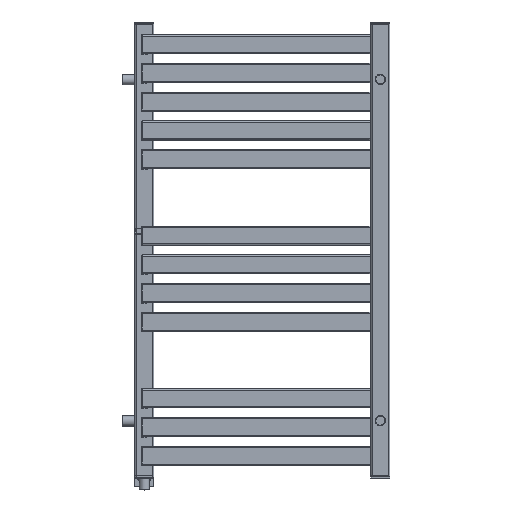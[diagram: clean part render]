
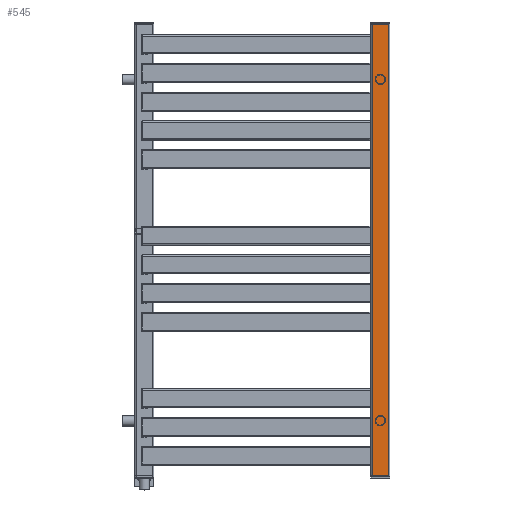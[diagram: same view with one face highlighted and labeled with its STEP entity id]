
A CAD part, top view. The second image highlights one B-rep face of the part: STEP entity #545.
In plain terms, the highlighted planar face has unit normal (0, 0, 1) as drawn and (1, 0, 0) by its records, which use the part's own axes.
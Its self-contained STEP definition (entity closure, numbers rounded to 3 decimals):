
#545 = ADVANCED_FACE( '', ( #1122 ), #1123, .T. );
#1122 = FACE_OUTER_BOUND( '', #1721, .T. );
#1123 = PLANE( '', #1722 );
#1721 = EDGE_LOOP( '', ( #3317, #3318, #3319, #3320 ) );
#1722 = AXIS2_PLACEMENT_3D( '', #3321, #3322, #3323 );
#3317 = ORIENTED_EDGE( '', *, *, #3547, .T. );
#3318 = ORIENTED_EDGE( '', *, *, #3737, .T. );
#3319 = ORIENTED_EDGE( '', *, *, #3865, .F. );
#3320 = ORIENTED_EDGE( '', *, *, #3917, .T. );
#3321 = CARTESIAN_POINT( '', ( 15., 711., -15. ) );
#3322 = DIRECTION( '', ( 1., 0., 0. ) );
#3323 = DIRECTION( '', ( 0., 0., -1. ) );
#3547 = EDGE_CURVE( '', #4287, #4285, #4288, .T. );
#3737 = EDGE_CURVE( '', #4285, #4591, #4593, .T. );
#3865 = EDGE_CURVE( '', #4770, #4591, #4771, .T. );
#3917 = EDGE_CURVE( '', #4770, #4287, #4835, .F. );
#4285 = VERTEX_POINT( '', #5305 );
#4287 = VERTEX_POINT( '', #5307 );
#4288 = LINE( '', #5308, #5309 );
#4591 = VERTEX_POINT( '', #5709 );
#4593 = LINE( '', #5711, #5712 );
#4770 = VERTEX_POINT( '', #5948 );
#4771 = LINE( '', #5949, #5950 );
#4835 = LINE( '', #6039, #6040 );
#5305 = CARTESIAN_POINT( '', ( 15., 711., 12. ) );
#5307 = CARTESIAN_POINT( '', ( 15., 711., -12. ) );
#5308 = CARTESIAN_POINT( '', ( 15., 711., -15. ) );
#5309 = VECTOR( '', #6386, 1000. );
#5709 = CARTESIAN_POINT( '', ( 15., 0., 12. ) );
#5711 = CARTESIAN_POINT( '', ( 15., 711., 12. ) );
#5712 = VECTOR( '', #6670, 1000. );
#5948 = CARTESIAN_POINT( '', ( 15., 0., -12. ) );
#5949 = CARTESIAN_POINT( '', ( 15., 0., -15. ) );
#5950 = VECTOR( '', #6850, 1000. );
#6039 = CARTESIAN_POINT( '', ( 15., 711., -12. ) );
#6040 = VECTOR( '', #6894, 1000. );
#6386 = DIRECTION( '', ( 0., 0., 1. ) );
#6670 = DIRECTION( '', ( 0., -1., 0. ) );
#6850 = DIRECTION( '', ( 0., 0., 1. ) );
#6894 = DIRECTION( '', ( 0., -1., 0. ) );
